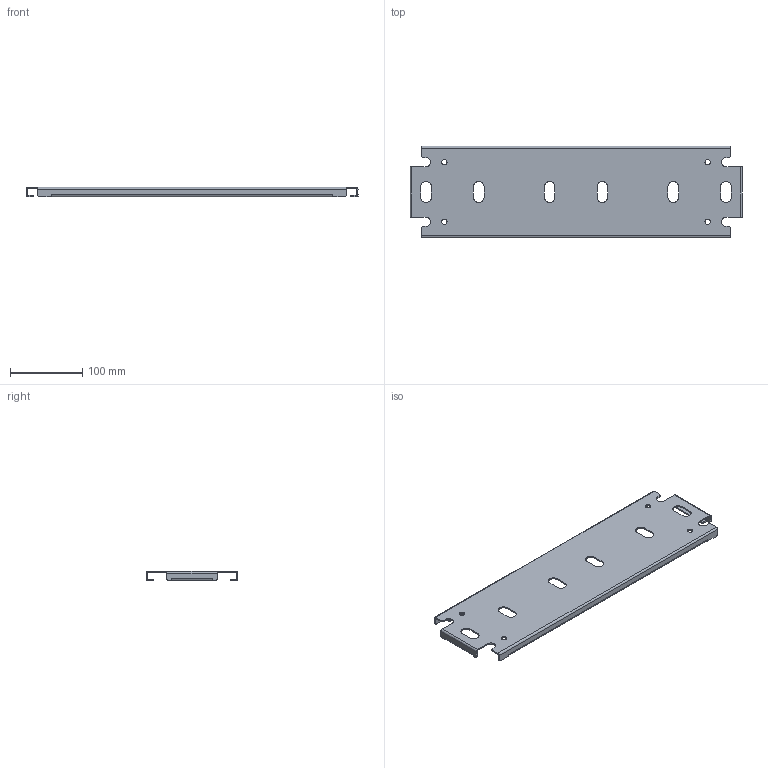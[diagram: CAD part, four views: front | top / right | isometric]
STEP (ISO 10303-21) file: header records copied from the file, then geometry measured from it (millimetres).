
FILE_DESCRIPTION(/* description */ ('1412BTCU 18.125" x 56" Inner Panel'),/* implementation_level */ '2;1');
FILE_NAME(/* name */ 'C:\Vault_Workspace\Inventor_Dwg\BoxCad\Result\1412BTCU07603\e-mail\3D\1412BTCU07603IP1.stp',/* time_stamp */ '2022-09-08T14:22:51-04:00',/* author */ ('BoxCad'),/* organization */ (''),/* preprocessor_version */ 'ST-DEVELOPER v18.1',/* originating_system */ 'Autodesk Inventor 2020',/* authorisation */ '');
FILE_SCHEMA (('AUTOMOTIVE_DESIGN { 1 0 10303 214 3 1 1 }'));
Length unit declared in the file: inch
Products named in the file (2): 1412BTCU07603IP1; 1412BTCU07603IP1-P
Assembly tree (1 placements, depth 2):
  1412BTCU07603IP1
    1412BTCU07603IP1-P
Bounding box: 460.38 x 127 x 13 mm (x, y, z)
Volume: 123315 mm3; surface area: 146186.2 mm2
Topology: 1 solids, 1 shells, 134 faces, 396 edges, 264 vertices
Faces by surface type: plane 78, cylinder 56
Full cylindrical faces by diameter (mm): 7.366 x4
Entity records: 4601 total; most frequent: CARTESIAN_POINT 797, ORIENTED_EDGE 792, DIRECTION 782, EDGE_CURVE 396, LINE 284, VECTOR 284, VERTEX_POINT 264, AXIS2_PLACEMENT_3D 249
